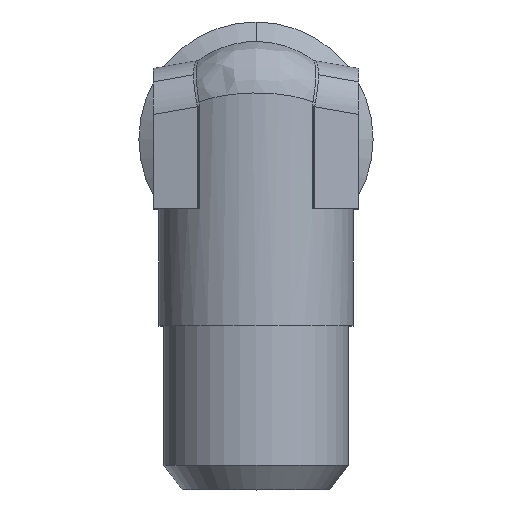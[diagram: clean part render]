
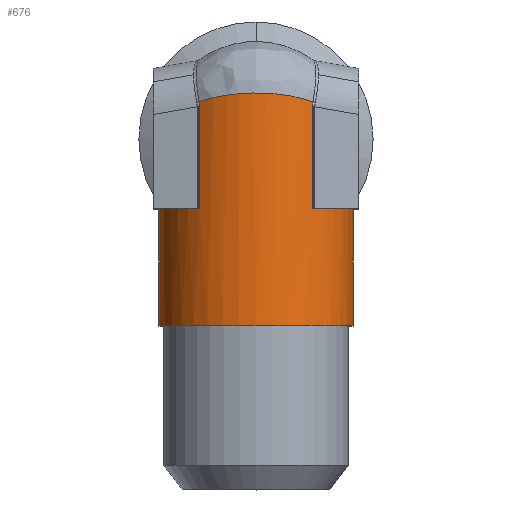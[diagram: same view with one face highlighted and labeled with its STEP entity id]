
A CAD part, top view. The second image highlights one B-rep face of the part: STEP entity #676.
In plain terms, the highlighted cylindrical face has radius 4.15 mm (diameter 8.3 mm), a partial arc.
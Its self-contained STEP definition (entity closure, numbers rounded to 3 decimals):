
#571=CARTESIAN_POINT('',(0.0,0.0,0.0));
#572=DIRECTION('',(0.0,1.0,0.0));
#573=DIRECTION('',(-1.0,0.0,0.0));
#574=AXIS2_PLACEMENT_3D('',#571,#572,#573);
#575=CYLINDRICAL_SURFACE('',#574,4.15);
#576=CARTESIAN_POINT('',(-4.15,-8.0,0.));
#577=VERTEX_POINT('',#576);
#578=CARTESIAN_POINT('',(-4.15,-3.0,0.));
#579=VERTEX_POINT('',#578);
#580=CARTESIAN_POINT('',(-4.15,-8.0,0.));
#581=DIRECTION('',(0.0,1.0,0.0));
#582=VECTOR('',#581,5.0);
#583=LINE('',#580,#582);
#584=EDGE_CURVE('',#577,#579,#583,.T.);
#585=ORIENTED_EDGE('',*,*,#584,.F.);
#586=CARTESIAN_POINT('',(4.15,-8.,0.0));
#587=VERTEX_POINT('',#586);
#588=CARTESIAN_POINT('',(0.0,-8.,0.0));
#589=DIRECTION('',(0.0,1.0,0.0));
#590=DIRECTION('',(-1.0,0.0,0.0));
#591=AXIS2_PLACEMENT_3D('',#588,#589,#590);
#592=CIRCLE('',#591,4.15);
#593=EDGE_CURVE('',#577,#587,#592,.T.);
#594=ORIENTED_EDGE('',*,*,#593,.T.);
#595=CARTESIAN_POINT('',(4.15,-3.0,0.));
#596=VERTEX_POINT('',#595);
#597=CARTESIAN_POINT('',(4.15,-3.0,0.));
#598=DIRECTION('',(0.0,-1.0,0.0));
#599=VECTOR('',#598,5.);
#600=LINE('',#597,#599);
#601=EDGE_CURVE('',#596,#587,#600,.T.);
#602=ORIENTED_EDGE('',*,*,#601,.F.);
#603=CARTESIAN_POINT('',(2.415,-3.0,3.375));
#604=VERTEX_POINT('',#603);
#605=CARTESIAN_POINT('',(0.0,-3.0,0.0));
#606=DIRECTION('',(0.0,-1.0,0.0));
#607=DIRECTION('',(-1.0,0.0,0.0));
#608=AXIS2_PLACEMENT_3D('',#605,#606,#607);
#609=CIRCLE('',#608,4.15);
#610=EDGE_CURVE('',#596,#604,#609,.T.);
#611=ORIENTED_EDGE('',*,*,#610,.T.);
#612=CARTESIAN_POINT('',(2.415,1.362,3.375));
#613=VERTEX_POINT('',#612);
#614=CARTESIAN_POINT('',(2.415,1.362,3.375));
#615=DIRECTION('',(0.0,-1.0,0.0));
#616=VECTOR('',#615,4.362);
#617=LINE('',#614,#616);
#618=EDGE_CURVE('',#613,#604,#617,.T.);
#619=ORIENTED_EDGE('',*,*,#618,.F.);
#620=CARTESIAN_POINT('',(2.434,1.58,3.362));
#621=VERTEX_POINT('',#620);
#622=CARTESIAN_POINT('',(2.434,1.58,3.362));
#623=CARTESIAN_POINT('',(2.432,1.571,3.363));
#624=CARTESIAN_POINT('',(2.431,1.562,3.364));
#625=CARTESIAN_POINT('',(2.427,1.538,3.366));
#626=CARTESIAN_POINT('',(2.425,1.524,3.368));
#627=CARTESIAN_POINT('',(2.421,1.487,3.371));
#628=CARTESIAN_POINT('',(2.419,1.463,3.372));
#629=CARTESIAN_POINT('',(2.416,1.414,3.374));
#630=CARTESIAN_POINT('',(2.415,1.388,3.375));
#631=CARTESIAN_POINT('',(2.415,1.362,3.375));
#632=B_SPLINE_CURVE_WITH_KNOTS('',3,(#622,#623,#624,#625,#626,#627,#628,#629,#630,#631),.UNSPECIFIED.,.F.,.U.,(4,2,2,2,4),(0.,0.027,0.071,0.141,0.218),.UNSPECIFIED.);
#633=EDGE_CURVE('',#621,#613,#632,.T.);
#634=ORIENTED_EDGE('',*,*,#633,.F.);
#635=CARTESIAN_POINT('',(-2.434,1.58,3.362));
#636=VERTEX_POINT('',#635);
#637=CARTESIAN_POINT('',(0.0,0.0,0.0));
#638=DIRECTION('',(0.0,0.905,-0.425));
#639=DIRECTION('',(0.0,0.425,0.905));
#640=AXIS2_PLACEMENT_3D('',#637,#638,#639);
#641=ELLIPSE('',#640,4.585,4.15);
#642=EDGE_CURVE('',#636,#621,#641,.T.);
#643=ORIENTED_EDGE('',*,*,#642,.F.);
#644=CARTESIAN_POINT('',(-2.415,1.362,3.375));
#645=VERTEX_POINT('',#644);
#646=CARTESIAN_POINT('',(-2.434,1.58,3.362));
#647=CARTESIAN_POINT('',(-2.432,1.571,3.363));
#648=CARTESIAN_POINT('',(-2.431,1.562,3.364));
#649=CARTESIAN_POINT('',(-2.427,1.538,3.366));
#650=CARTESIAN_POINT('',(-2.425,1.524,3.368));
#651=CARTESIAN_POINT('',(-2.421,1.487,3.371));
#652=CARTESIAN_POINT('',(-2.419,1.463,3.372));
#653=CARTESIAN_POINT('',(-2.416,1.414,3.374));
#654=CARTESIAN_POINT('',(-2.415,1.388,3.375));
#655=CARTESIAN_POINT('',(-2.415,1.362,3.375));
#656=B_SPLINE_CURVE_WITH_KNOTS('',3,(#646,#647,#648,#649,#650,#651,#652,#653,#654,#655),.UNSPECIFIED.,.F.,.U.,(4,2,2,2,4),(0.,0.027,0.071,0.141,0.219),.UNSPECIFIED.);
#657=EDGE_CURVE('',#645,#636,#656,.F.);
#658=ORIENTED_EDGE('',*,*,#657,.F.);
#659=CARTESIAN_POINT('',(-2.415,-3.0,3.375));
#660=VERTEX_POINT('',#659);
#661=CARTESIAN_POINT('',(-2.415,-3.0,3.375));
#662=DIRECTION('',(0.0,1.0,0.0));
#663=VECTOR('',#662,4.362);
#664=LINE('',#661,#663);
#665=EDGE_CURVE('',#660,#645,#664,.T.);
#666=ORIENTED_EDGE('',*,*,#665,.F.);
#667=CARTESIAN_POINT('',(0.0,-3.0,0.0));
#668=DIRECTION('',(0.0,-1.0,0.0));
#669=DIRECTION('',(-1.0,0.0,0.0));
#670=AXIS2_PLACEMENT_3D('',#667,#668,#669);
#671=CIRCLE('',#670,4.15);
#672=EDGE_CURVE('',#660,#579,#671,.T.);
#673=ORIENTED_EDGE('',*,*,#672,.T.);
#674=EDGE_LOOP('',(#585,#594,#602,#611,#619,#634,#643,#658,#666,#673));
#675=FACE_OUTER_BOUND('',#674,.T.);
#676=ADVANCED_FACE('',(#675),#575,.T.);
